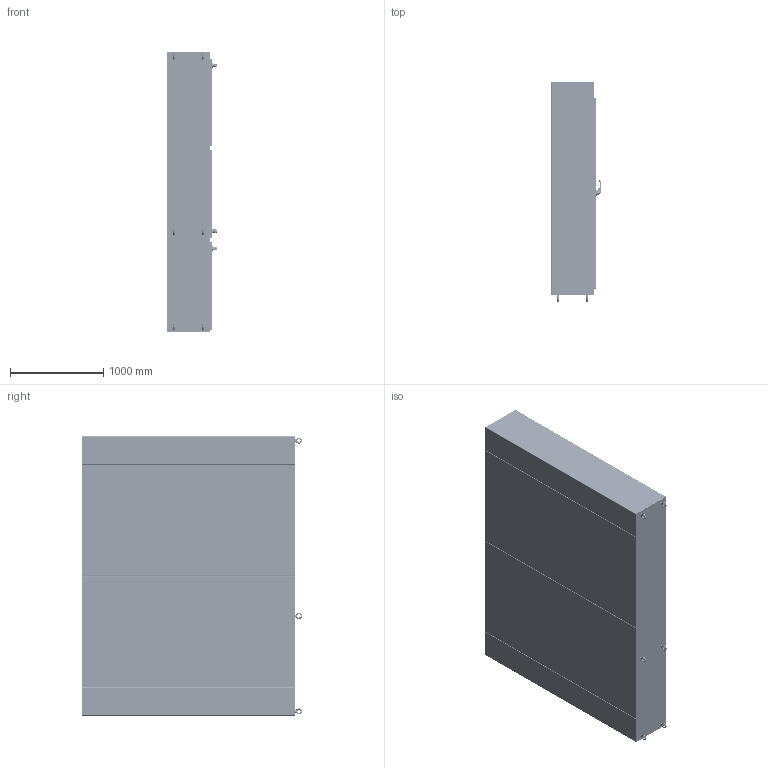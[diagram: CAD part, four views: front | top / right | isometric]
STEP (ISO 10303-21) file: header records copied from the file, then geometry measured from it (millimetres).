
FILE_DESCRIPTION((''),'2;1');
FILE_NAME('MODEL-602_ASM','2026-02-03T14:45:11',('joshi'),('SAGINAW CONTROL & ENGINEERING'),'CREO PARAMETRIC BY PTC INC, 2021284','CREO PARAMETRIC BY PTC INC, 2021284','');
FILE_SCHEMA(('AUTOMOTIVE_DESIGN { 1 0 10303 214 1 1 1 1 }'));
Length unit declared in the file: inch
Products named in the file (161): MODEL-602-3D-TP; MODEL-602-3D-R-SD; MODEL-602-3D-L-SD; MODEL-602-3D-BTM; MODEL-602-3D-R-BCK; MODEL-602-3D-L-BCK; 128003; 100028; 128003_ASM; 127619; 127619_ASM; MODEL-602-RH-CCA-CHNL; MODEL-602-RH-CCA-STIF; 100062; 128004; 128007; 102535; 100057; MODEL-602-RH-CCASSY_ASM; MODEL-602-M-CCA-CHNL; MODEL-602-M-CCA-STIF; 127618; 127617; MODEL-602-M-CCASSY_ASM; MODEL-602-M-DR; 100837; 111267; 100882; 100953_SCREW_MTG; 100953_PADLOCK_CATCH; 100953_SCREW_LARGE; 100953_INSERT_SHAFT; 100953_INSERT_PCH; 100953_GASKET; 100953_O-RING; 100953_BASE; 100953_SPRING; 100953_HANDLE; 100953_CAM_SHAFT; 100953_HANDLE_ASM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
Assembly tree (426 placements, depth 5):
  MODEL-602_ASM
    MODEL-602-3D-TP
    MODEL-602-3D-R-SD
    MODEL-602-3D-L-SD
    MODEL-602-3D-BTM
    MODEL-602-3D-R-BCK
    MODEL-602-3D-L-BCK
    128003_ASM  x2
      128003
      100028
    127619_ASM  x2
      127619
      100028
    MODEL-602-RH-CCASSY_ASM
      MODEL-602-RH-CCA-CHNL
      MODEL-602-RH-CCA-STIF
      100062  x2
      128004  x2
      128007  x2
      102535  x8
      100057  x2
    MODEL-602-M-CCASSY_ASM
      MODEL-602-M-CCA-CHNL
      MODEL-602-M-CCA-STIF
      100062  x2
      127618  x2
      127617  x2
      102535  x8
    MODEL-602-M-DOOR-ASSY_ASM
      MODEL-602-M-DR
      100837  x7
      111267
      100882  x12
      100953_ASM
        100953_SCREW_MTG
        100953_PADLOCK_CATCH
        100953_SCREW_LARGE  x2
        100953_INSERT_SHAFT
        100953_INSERT_PCH
        100953_GASKET
        100953_O-RING
        100953_BASE
        100953_SPRING
        100953_HANDLE_ASM
          100953_HANDLE
          100953_CAM_SHAFT
        100953_CAM_ADAPTER
        100953_EARTH_NUT
        100953_FLANGE_NUT
        100953_CAM_NUT
        100953_CP_INSERT
        100953_SPRING_CAM
        100953_TORSION_SPRING
        100953_SCREW_INSERT
      102237_ASM
        102237
        100030  x2
      MODEL-602-ROD-UPR-MD_ASM
        MODEL-602-ROD-UPR-MD
        128146
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Bounding box: 535.27 x 2360.8 x 2997.2 mm (x, y, z)
Volume: 82511649.6 mm3; surface area: 54117996.5 mm2
Topology: 503 solids, 503 shells, 39303 faces, 99883 edges, 61549 vertices
Faces by surface type: plane 13870, cylinder 10502, bspline 8785, torus 2846, cone 2148, sphere 1062, extrusion 90
Entity records: 709467 total; most frequent: CARTESIAN_POINT 279975, ORIENTED_EDGE 65658, DIRECTION 60797, PRESENTATION_STYLE_ASSIGNMENT 32965, STYLED_ITEM 32954, EDGE_CURVE 32829, CURVE_STYLE 32781, AXIS2_PLACEMENT_3D 22421
